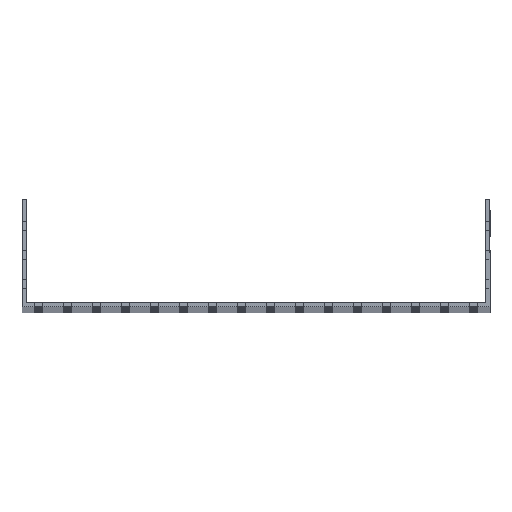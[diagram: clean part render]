
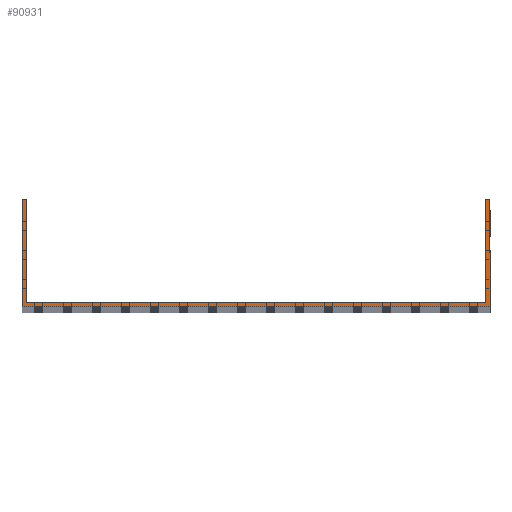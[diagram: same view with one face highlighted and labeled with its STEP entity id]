
A CAD part, top view. The second image highlights one B-rep face of the part: STEP entity #90931.
In plain terms, the highlighted planar face has unit normal (0, 0, 1).
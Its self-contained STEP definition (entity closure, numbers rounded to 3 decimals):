
#1478 = VECTOR ( 'NONE', #39394, 1000. ) ;
#1643 = DIRECTION ( 'NONE',  ( -1., 0., 0. ) ) ;
#4475 = ORIENTED_EDGE ( 'NONE', *, *, #185335, .T. ) ;
#5615 = CARTESIAN_POINT ( 'NONE',  ( -202., 3.5, 1500. ) ) ;
#16872 = EDGE_CURVE ( 'NONE', #76360, #152465, #64684, .T. ) ;
#26848 = DIRECTION ( 'NONE',  ( 0., -1., 0. ) ) ;
#31462 = ORIENTED_EDGE ( 'NONE', *, *, #126848, .F. ) ;
#39394 = DIRECTION ( 'NONE',  ( 1., 0., 0. ) ) ;
#45388 = VERTEX_POINT ( 'NONE', #192616 ) ;
#45979 = PLANE ( 'NONE',  #119808 ) ;
#49930 = ORIENTED_EDGE ( 'NONE', *, *, #176933, .T. ) ;
#53603 = LINE ( 'NONE', #5615, #1478 ) ;
#54981 = CARTESIAN_POINT ( 'NONE',  ( -198.5, 92.5, 1500. ) ) ;
#56816 = CARTESIAN_POINT ( 'NONE',  ( -202., 92.5, 1500. ) ) ;
#59193 = LINE ( 'NONE', #110395, #147755 ) ;
#61662 = EDGE_CURVE ( 'NONE', #71782, #212051, #203205, .T. ) ;
#64684 = LINE ( 'NONE', #213955, #105479 ) ;
#71782 = VERTEX_POINT ( 'NONE', #101823 ) ;
#72475 = EDGE_CURVE ( 'NONE', #76360, #185700, #157064, .T. ) ;
#76360 = VERTEX_POINT ( 'NONE', #54981 ) ;
#79741 = CARTESIAN_POINT ( 'NONE',  ( 0., 0., 1500. ) ) ;
#82101 = ORIENTED_EDGE ( 'NONE', *, *, #72475, .T. ) ;
#90931 = ADVANCED_FACE ( 'NONE', ( #194178 ), #45979, .T. ) ;
#91659 = DIRECTION ( 'NONE',  ( -1., 0., 0. ) ) ;
#95769 = CARTESIAN_POINT ( 'NONE',  ( 198.5, 3.5, 1500. ) ) ;
#98455 = DIRECTION ( 'NONE',  ( 0., -1., 0. ) ) ;
#101823 = CARTESIAN_POINT ( 'NONE',  ( 202., 92.5, 1500. ) ) ;
#105479 = VECTOR ( 'NONE', #98455, 1000. ) ;
#110395 = CARTESIAN_POINT ( 'NONE',  ( -202., 0., 1500. ) ) ;
#112870 = VECTOR ( 'NONE', #1643, 1000. ) ;
#117633 = EDGE_LOOP ( 'NONE', ( #202481, #82101, #49930, #4475, #127063, #208616, #31462, #161562 ) ) ;
#119808 = AXIS2_PLACEMENT_3D ( 'NONE', #79741, #143009, #145145 ) ;
#124969 = CARTESIAN_POINT ( 'NONE',  ( -202., 92.5, 1500. ) ) ;
#126757 = VECTOR ( 'NONE', #200607, 1000. ) ;
#126848 = EDGE_CURVE ( 'NONE', #132100, #212051, #147311, .T. ) ;
#127063 = ORIENTED_EDGE ( 'NONE', *, *, #150929, .T. ) ;
#128897 = DIRECTION ( 'NONE',  ( 1., 0., 0. ) ) ;
#130122 = CARTESIAN_POINT ( 'NONE',  ( 198.5, 92.5, 1500. ) ) ;
#131230 = CARTESIAN_POINT ( 'NONE',  ( -198.5, 3.5, 1500. ) ) ;
#132100 = VERTEX_POINT ( 'NONE', #95769 ) ;
#133088 = VECTOR ( 'NONE', #26848, 1000. ) ;
#141522 = CARTESIAN_POINT ( 'NONE',  ( -202., 92.5, 1500. ) ) ;
#143009 = DIRECTION ( 'NONE',  ( 0., 0., 1. ) ) ;
#145145 = DIRECTION ( 'NONE',  ( 1., 0., 0. ) ) ;
#146071 = VECTOR ( 'NONE', #202438, 1000. ) ;
#147311 = LINE ( 'NONE', #165781, #126757 ) ;
#147755 = VECTOR ( 'NONE', #128897, 1000. ) ;
#150628 = VECTOR ( 'NONE', #91659, 1000. ) ;
#150929 = EDGE_CURVE ( 'NONE', #207785, #71782, #203510, .T. ) ;
#152465 = VERTEX_POINT ( 'NONE', #131230 ) ;
#155547 = CARTESIAN_POINT ( 'NONE',  ( 202., 92.5, 1500. ) ) ;
#157064 = LINE ( 'NONE', #56816, #150628 ) ;
#159948 = EDGE_CURVE ( 'NONE', #152465, #132100, #53603, .T. ) ;
#161562 = ORIENTED_EDGE ( 'NONE', *, *, #159948, .F. ) ;
#165412 = CARTESIAN_POINT ( 'NONE',  ( 202., 0., 1500. ) ) ;
#165781 = CARTESIAN_POINT ( 'NONE',  ( 198.5, 92.5, 1500. ) ) ;
#176933 = EDGE_CURVE ( 'NONE', #185700, #45388, #208831, .T. ) ;
#184709 = CARTESIAN_POINT ( 'NONE',  ( -202., 92.5, 1500. ) ) ;
#185335 = EDGE_CURVE ( 'NONE', #45388, #207785, #59193, .T. ) ;
#185700 = VERTEX_POINT ( 'NONE', #141522 ) ;
#192616 = CARTESIAN_POINT ( 'NONE',  ( -202., 0., 1500. ) ) ;
#194178 = FACE_OUTER_BOUND ( 'NONE', #117633, .T. ) ;
#200607 = DIRECTION ( 'NONE',  ( 0., 1., 0. ) ) ;
#202438 = DIRECTION ( 'NONE',  ( 0., 1., 0. ) ) ;
#202481 = ORIENTED_EDGE ( 'NONE', *, *, #16872, .F. ) ;
#203205 = LINE ( 'NONE', #184709, #112870 ) ;
#203510 = LINE ( 'NONE', #155547, #146071 ) ;
#207785 = VERTEX_POINT ( 'NONE', #165412 ) ;
#208616 = ORIENTED_EDGE ( 'NONE', *, *, #61662, .T. ) ;
#208831 = LINE ( 'NONE', #124969, #133088 ) ;
#212051 = VERTEX_POINT ( 'NONE', #130122 ) ;
#213955 = CARTESIAN_POINT ( 'NONE',  ( -198.5, 92.5, 1500. ) ) ;
